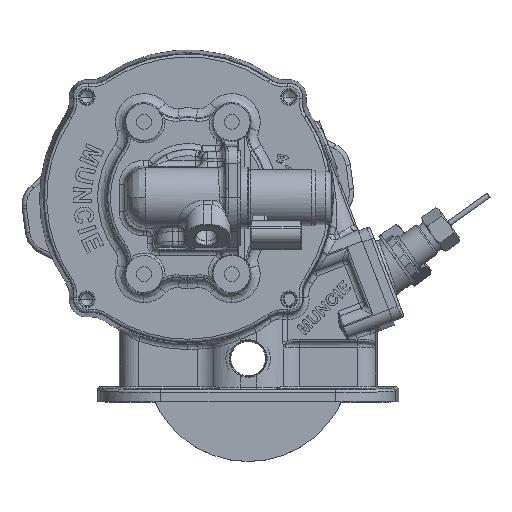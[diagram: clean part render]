
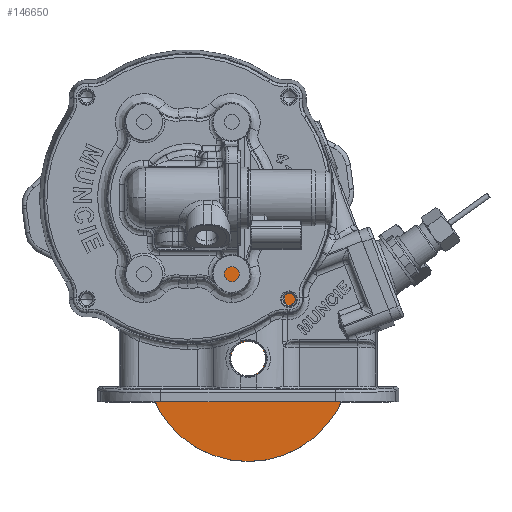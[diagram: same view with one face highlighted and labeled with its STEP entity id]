
A CAD part, top view. The second image highlights one B-rep face of the part: STEP entity #146650.
In plain terms, the highlighted planar face has unit normal (0, 0, 1).
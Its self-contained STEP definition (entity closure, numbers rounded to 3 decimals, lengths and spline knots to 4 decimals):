
#13756 = DIRECTION ( 'NONE',  ( 1., 0., 0. ) ) ;
#18825 = AXIS2_PLACEMENT_3D ( 'NONE', #125673, #91297, #31839 ) ;
#23588 = DIRECTION ( 'NONE',  ( -1., 0., 0. ) ) ;
#31839 = DIRECTION ( 'NONE',  ( 1., 0., 0. ) ) ;
#31954 = ORIENTED_EDGE ( 'NONE', *, *, #110886, .F. ) ;
#35325 = DIRECTION ( 'NONE',  ( 0., 0., 1. ) ) ;
#42105 = CARTESIAN_POINT ( 'NONE',  ( 2.4323, -1.4645, 1.6136 ) ) ;
#47066 = CARTESIAN_POINT ( 'NONE',  ( 0.2973, -1.4645, 1.6136 ) ) ;
#51784 = DIRECTION ( 'NONE',  ( 0., 0., 1. ) ) ;
#53053 = CIRCLE ( 'NONE', #75623, 0.3595 ) ;
#53633 = CARTESIAN_POINT ( 'NONE',  ( -0.0622, -1.4645, 1.6136 ) ) ;
#55689 = FACE_OUTER_BOUND ( 'NONE', #124546, .T. ) ;
#57213 = PLANE ( 'NONE',  #113027 ) ;
#59199 = EDGE_LOOP ( 'NONE', ( #31954, #141028 ) ) ;
#60957 = EDGE_CURVE ( 'NONE', #142344, #107201, #124814, .T. ) ;
#67093 = VERTEX_POINT ( 'NONE', #86317 ) ;
#69759 = FACE_BOUND ( 'NONE', #59199, .T. ) ;
#73227 = CARTESIAN_POINT ( 'NONE',  ( 0.2973, -1.4645, 1.6136 ) ) ;
#75291 = DIRECTION ( 'NONE',  ( -1., 0., 0. ) ) ;
#75623 = AXIS2_PLACEMENT_3D ( 'NONE', #111989, #51784, #75291 ) ;
#77841 = VERTEX_POINT ( 'NONE', #53633 ) ;
#85344 = EDGE_CURVE ( 'NONE', #107201, #142344, #151242, .T. ) ;
#86317 = CARTESIAN_POINT ( 'NONE',  ( 0.6568, -1.4645, 1.6136 ) ) ;
#91245 = EDGE_CURVE ( 'NONE', #67093, #77841, #53053, .T. ) ;
#91297 = DIRECTION ( 'NONE',  ( 0., 0., -1. ) ) ;
#92879 = CARTESIAN_POINT ( 'NONE',  ( -1.8377, -1.4645, 1.6136 ) ) ;
#102402 = AXIS2_PLACEMENT_3D ( 'NONE', #73227, #120885, #13756 ) ;
#107201 = VERTEX_POINT ( 'NONE', #92879 ) ;
#110886 = EDGE_CURVE ( 'NONE', #77841, #67093, #145471, .T. ) ;
#110972 = ORIENTED_EDGE ( 'NONE', *, *, #60957, .F. ) ;
#111989 = CARTESIAN_POINT ( 'NONE',  ( 0.2973, -1.4645, 1.6136 ) ) ;
#113027 = AXIS2_PLACEMENT_3D ( 'NONE', #151125, #117424, #152646 ) ;
#117424 = DIRECTION ( 'NONE',  ( 0., 0., -1. ) ) ;
#118001 = AXIS2_PLACEMENT_3D ( 'NONE', #47066, #35325, #23588 ) ;
#120885 = DIRECTION ( 'NONE',  ( 0., 0., -1. ) ) ;
#121676 = ORIENTED_EDGE ( 'NONE', *, *, #85344, .F. ) ;
#124546 = EDGE_LOOP ( 'NONE', ( #110972, #121676 ) ) ;
#124814 = CIRCLE ( 'NONE', #102402, 2.135 ) ;
#125673 = CARTESIAN_POINT ( 'NONE',  ( 0.2973, -1.4645, 1.6136 ) ) ;
#141028 = ORIENTED_EDGE ( 'NONE', *, *, #91245, .F. ) ;
#142344 = VERTEX_POINT ( 'NONE', #42105 ) ;
#145471 = CIRCLE ( 'NONE', #118001, 0.3595 ) ;
#146650 = ADVANCED_FACE ( 'NONE', ( #55689, #69759 ), #57213, .F. ) ;
#151125 = CARTESIAN_POINT ( 'NONE',  ( 0.2973, -1.4645, 1.6136 ) ) ;
#151242 = CIRCLE ( 'NONE', #18825, 2.135 ) ;
#152646 = DIRECTION ( 'NONE',  ( -1., 0., 0. ) ) ;
